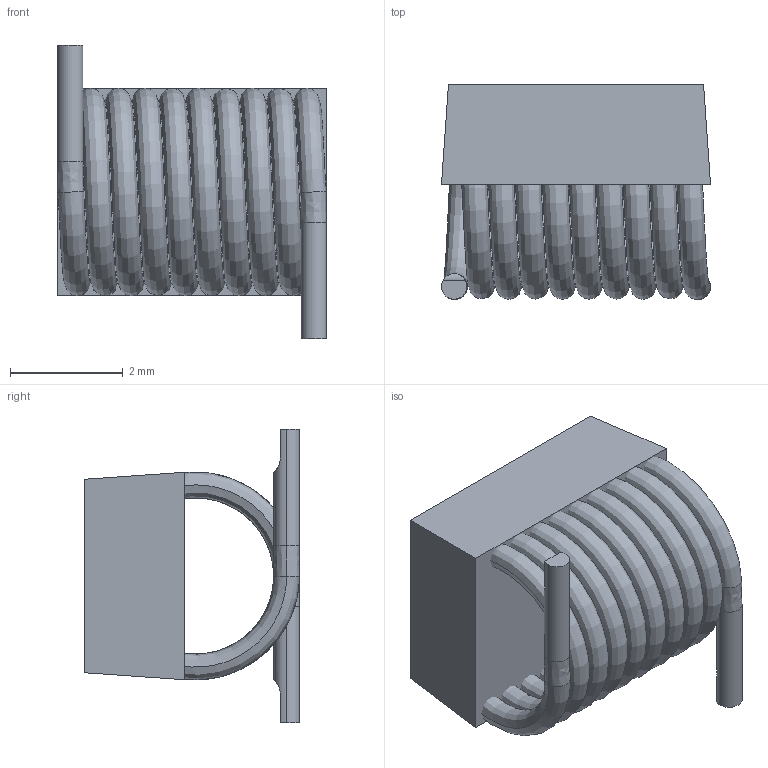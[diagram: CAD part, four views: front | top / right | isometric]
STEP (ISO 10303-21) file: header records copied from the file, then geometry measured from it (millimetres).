
FILE_DESCRIPTION (( 'STEP AP214' ), '1' );
FILE_NAME ('Coilcraft-1812SMS-R10.STEP', '2018-12-18T08:31:23', ( '' ), ( '' ), 'SwSTEP 2.0', 'SolidWorks 2018', '' );
FILE_SCHEMA (( 'AUTOMOTIVE_DESIGN' ));
Length unit declared in the file: inch
Products named in the file (3): Coilcraft-1812SMS-R10_36-625 [T7-566-1]_1812SMS-XXXL_2; Coilcraft-1812SMS-R10_W XXATZ2-X [1812SMS]_1812SMS-R10_2; Coilcraft-1812SMS-R10
Assembly tree (2 placements, depth 2):
  Coilcraft-1812SMS-R10
    Coilcraft-1812SMS-R10_36-625 [T7-566-1]_1812SMS-XXXL_2
    Coilcraft-1812SMS-R10_W XXATZ2-X [1812SMS]_1812SMS-R10_2
Bounding box: 4.77 x 3.81 x 5.21 mm (x, y, z)
Volume: 44.8 mm3; surface area: 199.7 mm2
Topology: 2 solids, 2 shells, 22 faces, 48 edges, 30 vertices
Faces by surface type: plane 10, bspline 6, cylinder 6
Entity records: 5208 total; most frequent: CARTESIAN_POINT 4331, DIRECTION 106, ORIENTED_EDGE 96, EDGE_CURVE 48, AXIS2_PLACEMENT_3D 41, VERTEX_POINT 30, LENGTH_MEASURE_WITH_UNIT 29, UNCERTAINTY_MEASURE_WITH_UNIT 29
